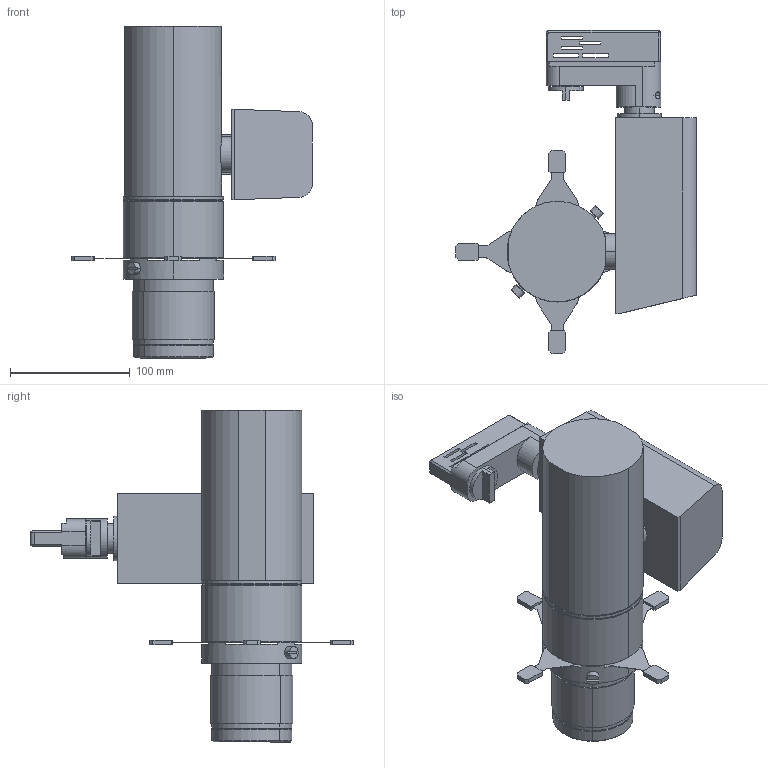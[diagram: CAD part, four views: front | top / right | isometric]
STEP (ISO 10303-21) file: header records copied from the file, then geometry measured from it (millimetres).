
FILE_DESCRIPTION (( 'STEP AP203' ), '1' );
FILE_NAME ('P1L (Track_Sidecar)_Hanging+50D_10-06-2026.STEP', '2026-06-11T02:55:52', ( '' ), ( '' ), 'SwSTEP 2.0', 'SolidWorks 2014', '' );
FILE_SCHEMA (( 'CONFIG_CONTROL_DESIGN' ));
Length unit declared in the file: millimetre
Products named in the file (5): ONE TRACK Track Adapter; P1L - Light Body; 50D_Fresnel Lens_P1L; P1L (Track_Sidecar)_Hanging+50D_10-06-2026; Sidecar_Yoke+PSU_(Track)
Assembly tree (4 placements, depth 2):
  P1L (Track_Sidecar)_Hanging+50D_10-06-2026
    Sidecar_Yoke+PSU_(Track)
    P1L - Light Body
    50D_Fresnel Lens_P1L
    ONE TRACK Track Adapter
Bounding box: 201.56 x 270.31 x 277.7 mm (x, y, z)
Volume: 2278605.1 mm3; surface area: 188330.6 mm2
Topology: 7 solids, 7 shells, 351 faces, 906 edges, 588 vertices
Faces by surface type: plane 221, cylinder 98, cone 26, bspline 4, torus 2
Entity records: 11953 total; most frequent: CARTESIAN_POINT 2736, ORIENTED_EDGE 1812, DIRECTION 1810, EDGE_CURVE 906, AXIS2_PLACEMENT_3D 608, LINE 594, VECTOR 594, VERTEX_POINT 588
